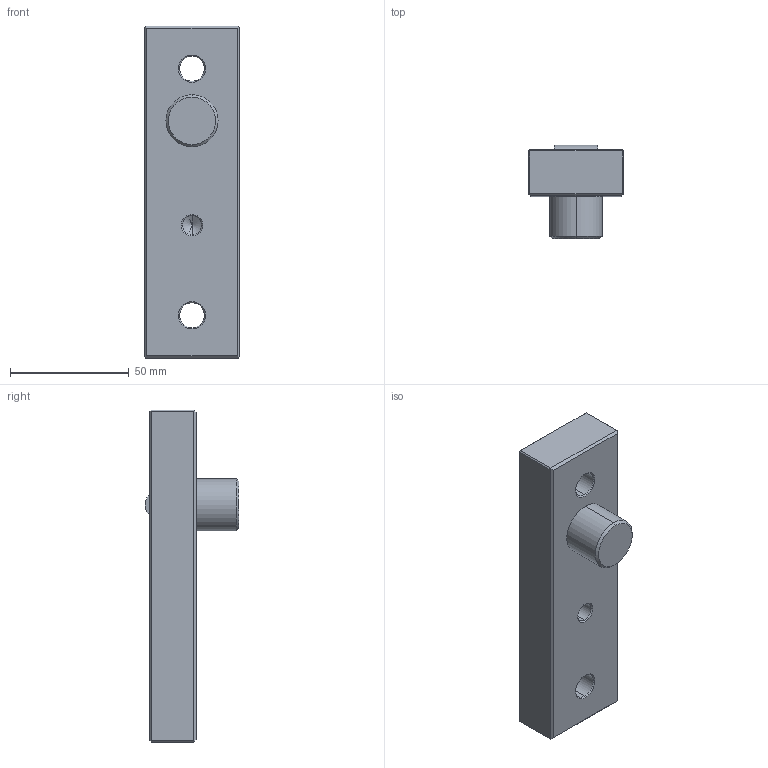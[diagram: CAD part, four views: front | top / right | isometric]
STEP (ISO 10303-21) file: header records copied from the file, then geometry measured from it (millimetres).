
FILE_DESCRIPTION (( 'STEP AP203' ), '1' );
FILE_NAME ('PRI40140.STEP', '2010-11-03T09:54:36', ( ' ' ), ( ' ' ), 'SwSTEP 2.0', 'SolidWorks 2005204', '' );
FILE_SCHEMA (( 'CONFIG_CONTROL_DESIGN' ));
Length unit declared in the file: millimetre
Products named in the file (1): PRI40140
Bounding box: 40 x 39.5 x 140 mm (x, y, z)
Volume: 108860.6 mm3; surface area: 20825.9 mm2
Topology: 1 solids, 1 shells, 54 faces, 118 edges, 69 vertices
Faces by surface type: plane 27, cone 14, cylinder 13
Entity records: 1523 total; most frequent: DIRECTION 264, CARTESIAN_POINT 240, ORIENTED_EDGE 232, EDGE_CURVE 116, AXIS2_PLACEMENT_3D 93, LINE 78, VECTOR 78, VERTEX_POINT 69
